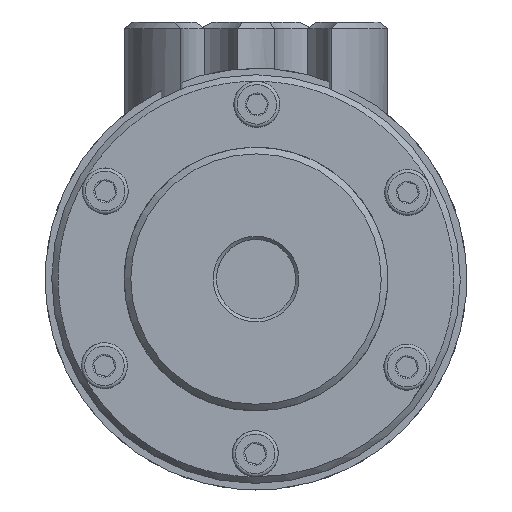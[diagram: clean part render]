
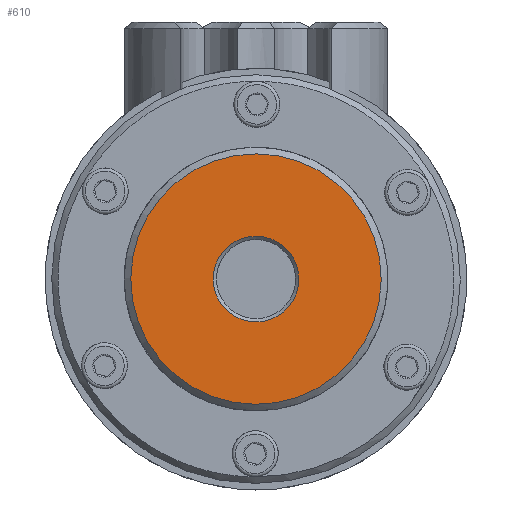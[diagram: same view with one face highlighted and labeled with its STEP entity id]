
A CAD part, left-side view. The second image highlights one B-rep face of the part: STEP entity #610.
In plain terms, the highlighted planar face has unit normal (-1, 0, 0) as drawn and (0, 0, -1) by its records, which use the part's own axes.
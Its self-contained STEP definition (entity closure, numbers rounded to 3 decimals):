
#610 = ADVANCED_FACE( '', ( #1187, #1188 ), #1189, .T. );
#1187 = FACE_OUTER_BOUND( '', #1918, .T. );
#1188 = FACE_BOUND( '', #1919, .T. );
#1189 = PLANE( '', #1920 );
#1918 = EDGE_LOOP( '', ( #3417 ) );
#1919 = EDGE_LOOP( '', ( #3418 ) );
#1920 = AXIS2_PLACEMENT_3D( '', #3419, #3420, #3421 );
#3417 = ORIENTED_EDGE( '', *, *, #4859, .T. );
#3418 = ORIENTED_EDGE( '', *, *, #4822, .T. );
#3419 = CARTESIAN_POINT( '', ( 0., 0., 0. ) );
#3420 = DIRECTION( '', ( 0., 0., -1. ) );
#3421 = DIRECTION( '', ( 0., -1., 0. ) );
#4822 = EDGE_CURVE( '', #5600, #5600, #5601, .F. );
#4859 = EDGE_CURVE( '', #5657, #5657, #5658, .T. );
#5600 = VERTEX_POINT( '', #6796 );
#5601 = CIRCLE( '', #6797, 6.5 );
#5657 = VERTEX_POINT( '', #7043 );
#5658 = CIRCLE( '', #7044, 19. );
#6796 = CARTESIAN_POINT( '', ( -6.5, 0., 0. ) );
#6797 = AXIS2_PLACEMENT_3D( '', #8057, #8058, #8059 );
#7043 = CARTESIAN_POINT( '', ( -19., 0., 0. ) );
#7044 = AXIS2_PLACEMENT_3D( '', #8116, #8117, #8118 );
#8057 = CARTESIAN_POINT( '', ( 0., 0., 0. ) );
#8058 = DIRECTION( '', ( 0., 0., -1. ) );
#8059 = DIRECTION( '', ( -1., 0., 0. ) );
#8116 = CARTESIAN_POINT( '', ( 0., 0., 0. ) );
#8117 = DIRECTION( '', ( 0., 0., -1. ) );
#8118 = DIRECTION( '', ( -1., 0., 0. ) );
